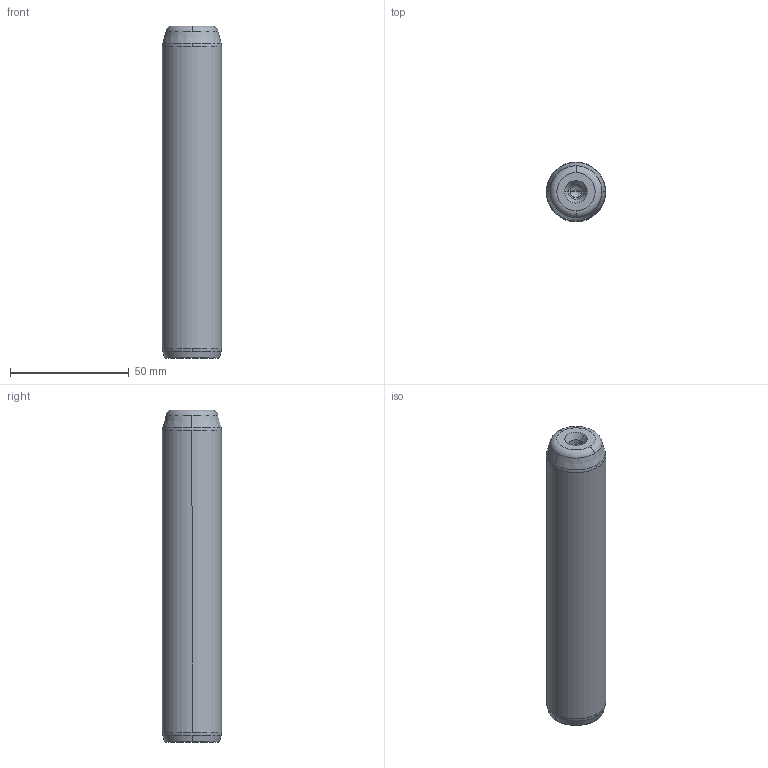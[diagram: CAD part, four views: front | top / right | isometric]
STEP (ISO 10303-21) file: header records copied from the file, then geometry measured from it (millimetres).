
FILE_DESCRIPTION((''),'2;1');
FILE_NAME('P10_025_140.stp','2008-12-23T14:54:29',(''),(''),'Mechanical Desktop 2009','Mechanical Desktop 2009',', , ');
FILE_SCHEMA(('CONFIG_CONTROL_DESIGN'));
Length unit declared in the file: millimetre
Products named in the file (5): Product; ProductAA; blmdl1; ProductA; blmdl1A
Assembly tree (2 placements, depth 3):
  Product
    ProductAA
      blmdl1
  ProductA
  blmdl1A
Bounding box: 25 x 25 x 140 mm (x, y, z)
Volume: 67353.6 mm3; surface area: 11998.5 mm2
Topology: 1 solids, 1 shells, 26 faces, 66 edges, 41 vertices
Faces by surface type: cone 10, torus 8, cylinder 6, plane 2
Entity records: 1012 total; most frequent: DIRECTION 170, CARTESIAN_POINT 134, ORIENTED_EDGE 128, AXIS2_PLACEMENT_3D 77, EDGE_CURVE 64, CIRCLE 48, VERTEX_POINT 41, EDGE_LOOP 27
